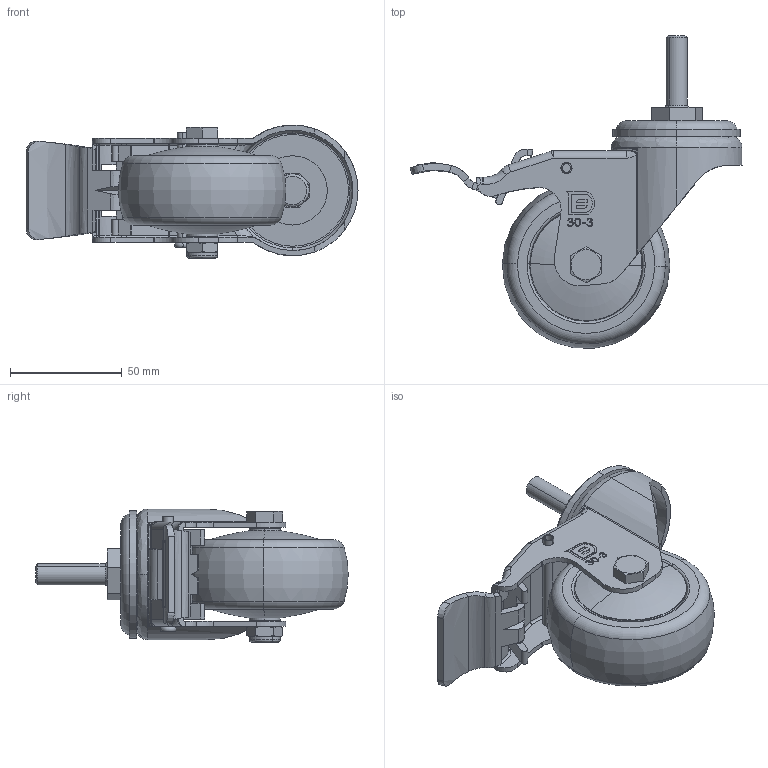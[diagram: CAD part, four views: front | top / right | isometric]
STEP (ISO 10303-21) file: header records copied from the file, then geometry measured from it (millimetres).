
FILE_DESCRIPTION (( 'STEP AP203' ), '1' );
FILE_NAME ('4113003004103-展示用.STEP', '2024-11-05T03:56:27', ( '' ), ( '' ), 'SwSTEP 2.0', 'SolidWorks 2019', '' );
FILE_SCHEMA (( 'CONFIG_CONTROL_DESIGN' ));
Length unit declared in the file: millimetre
Products named in the file (10): 鐵雙煞踏板0313-2.5-110; 245042402001 墊圈-電鍍 23x15.2x2.3t_084048; 4502090003 尼龍螺帽 20190422; 213015050002 30系列上珠碗-沖壓-展示用; 4201093202 3''''.4''''.5''''高級和4.5''''儀器架用牙心 3 8''''-16牙x32L(NEW) 20171013_133519; 4113003004103-展示用; 412350300012 PPR近 痌η堵 3; 4202095401 4''''.5''''儀器.高級活動用車心 20190430; 213014030003 30系列鐵雙煞腳-電鍍-展示用; 4201044901-3''''4''''5''''儀器輪用煞車空心鉚釘(4.8x49.5L) 20210708
Assembly tree (9 placements, depth 2):
  4113003004103-展示用
    213015050002 30系列上珠碗-沖壓-展示用
    213014030003 30系列鐵雙煞腳-電鍍-展示用
    412350300012 PPR近 痌η堵 3
    4202095401 4''''.5''''儀器.高級活動用車心 20190430
    4502090003 尼龍螺帽 20190422
    鐵雙煞踏板0313-2.5-110
    4201044901-3''''4''''5''''儀器輪用煞車空心鉚釘(4.8x49.5L) 20210708
    4201093202 3''''.4''''.5''''高級和4.5''''儀器架用牙心 3 8''''-16牙x32L(NEW) 20171013_133519
    245042402001 墊圈-電鍍 23x15.2x2.3t_084048
Bounding box: 148.57 x 139.8 x 59.95 mm (x, y, z)
Volume: 163004.3 mm3; surface area: 72716.5 mm2
Topology: 9 solids, 9 shells, 542 faces, 1377 edges, 875 vertices
Faces by surface type: plane 170, cylinder 153, bspline 130, torus 50, cone 30, sphere 9
Entity records: 24532 total; most frequent: CARTESIAN_POINT 11296, ORIENTED_EDGE 2742, DIRECTION 2244, EDGE_CURVE 1371, VERTEX_POINT 874, AXIS2_PLACEMENT_3D 853, EDGE_LOOP 589, FACE_OUTER_BOUND 542
